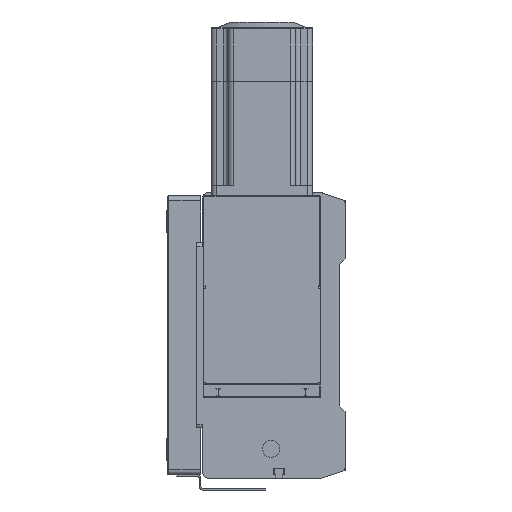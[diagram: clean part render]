
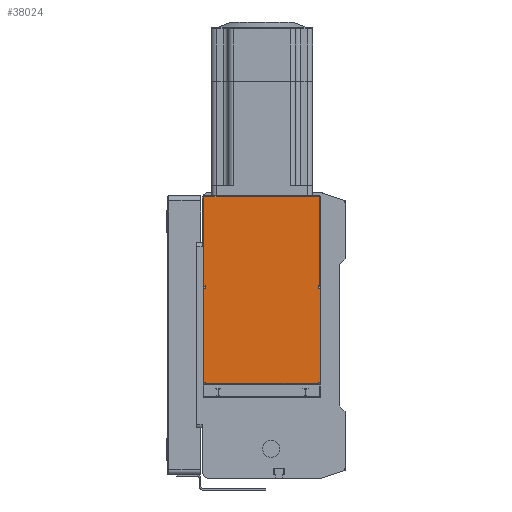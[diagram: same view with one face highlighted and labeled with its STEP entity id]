
A CAD part, left-side view. The second image highlights one B-rep face of the part: STEP entity #38024.
In plain terms, the highlighted planar face has unit normal (-1, 0, 0).
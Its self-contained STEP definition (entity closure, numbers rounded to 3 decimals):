
#25299=DIRECTION('',(0.,1.,0.));
#25300=VECTOR('',#25299,69.);
#25301=CARTESIAN_POINT('',(-333.5,15.5,82.5));
#25302=LINE('',#25301,#25300);
#25347=DIRECTION('',(0.,-1.,0.));
#25348=VECTOR('',#25347,1.);
#25349=CARTESIAN_POINT('',(-333.5,16.5,29.4));
#25350=LINE('',#25349,#25348);
#25541=DIRECTION('',(0.,0.,-1.));
#25542=VECTOR('',#25541,56.);
#25543=CARTESIAN_POINT('',(-333.5,85.,28.));
#25544=LINE('',#25543,#25542);
#25631=DIRECTION('',(0.,0.,-1.));
#25632=VECTOR('',#25631,1.4);
#25633=CARTESIAN_POINT('',(-333.5,83.5,29.4));
#25634=LINE('',#25633,#25632);
#25649=DIRECTION('',(0.,1.,0.));
#25650=VECTOR('',#25649,1.);
#25651=CARTESIAN_POINT('',(-333.5,83.5,29.4));
#25652=LINE('',#25651,#25650);
#25653=DIRECTION('',(0.,0.,-1.));
#25654=VECTOR('',#25653,1.4);
#25655=CARTESIAN_POINT('',(-333.5,16.5,29.4));
#25656=LINE('',#25655,#25654);
#25657=DIRECTION('',(0.,0.,-1.));
#25658=VECTOR('',#25657,56.);
#25659=CARTESIAN_POINT('',(-333.5,15.,28.));
#25660=LINE('',#25659,#25658);
#25661=DIRECTION('',(0.,1.,0.));
#25662=VECTOR('',#25661,1.5);
#25663=CARTESIAN_POINT('',(-333.5,15.,-28.));
#25664=LINE('',#25663,#25662);
#25665=DIRECTION('',(0.,0.,-1.));
#25666=VECTOR('',#25665,0.5);
#25667=CARTESIAN_POINT('',(-333.5,16.5,-28.));
#25668=LINE('',#25667,#25666);
#25674=DIRECTION('',(0.,0.,-1.));
#25675=VECTOR('',#25674,0.5);
#25676=CARTESIAN_POINT('',(-333.5,83.5,-28.));
#25677=LINE('',#25676,#25675);
#25690=DIRECTION('',(0.,-1.,0.));
#25691=VECTOR('',#25690,1.5);
#25692=CARTESIAN_POINT('',(-333.5,85.,-28.));
#25693=LINE('',#25692,#25691);
#25714=DIRECTION('',(0.,-1.,0.));
#25715=VECTOR('',#25714,67.);
#25716=CARTESIAN_POINT('',(-333.5,83.5,-28.5));
#25717=LINE('',#25716,#25715);
#26825=DIRECTION('',(0.,1.,0.));
#26826=VECTOR('',#26825,1.5);
#26827=CARTESIAN_POINT('',(-333.5,83.5,28.));
#26828=LINE('',#26827,#26826);
#26849=DIRECTION('',(0.,0.,-1.));
#26850=VECTOR('',#26849,53.1);
#26851=CARTESIAN_POINT('',(-333.5,84.5,82.5));
#26852=LINE('',#26851,#26850);
#26853=DIRECTION('',(0.,0.,1.));
#26854=VECTOR('',#26853,53.1);
#26855=CARTESIAN_POINT('',(-333.5,15.5,29.4));
#26856=LINE('',#26855,#26854);
#26993=DIRECTION('',(0.,1.,0.));
#26994=VECTOR('',#26993,1.5);
#26995=CARTESIAN_POINT('',(-333.5,15.,28.));
#26996=LINE('',#26995,#26994);
#31209=CARTESIAN_POINT('',(-333.5,84.5,29.4));
#31210=VERTEX_POINT('',#31209);
#31211=CARTESIAN_POINT('',(-333.5,83.5,29.4));
#31212=VERTEX_POINT('',#31211);
#31547=CARTESIAN_POINT('',(-333.5,16.5,-28.));
#31549=VERTEX_POINT('',#31547);
#31554=CARTESIAN_POINT('',(-333.5,16.5,-28.5));
#31556=VERTEX_POINT('',#31554);
#31603=CARTESIAN_POINT('',(-333.5,15.,-28.));
#31604=VERTEX_POINT('',#31603);
#31605=CARTESIAN_POINT('',(-333.5,15.,28.));
#31606=VERTEX_POINT('',#31605);
#31757=CARTESIAN_POINT('',(-333.5,83.5,28.));
#31758=CARTESIAN_POINT('',(-333.5,85.,28.));
#31759=VERTEX_POINT('',#31757);
#31760=VERTEX_POINT('',#31758);
#31761=CARTESIAN_POINT('',(-333.5,16.5,29.4));
#31762=CARTESIAN_POINT('',(-333.5,15.5,29.4));
#31763=VERTEX_POINT('',#31761);
#31764=VERTEX_POINT('',#31762);
#31765=CARTESIAN_POINT('',(-333.5,16.5,28.));
#31766=VERTEX_POINT('',#31765);
#31767=CARTESIAN_POINT('',(-333.5,83.5,-28.));
#31768=CARTESIAN_POINT('',(-333.5,83.5,-28.5));
#31769=VERTEX_POINT('',#31767);
#31770=VERTEX_POINT('',#31768);
#31779=CARTESIAN_POINT('',(-333.5,85.,-28.));
#31780=VERTEX_POINT('',#31779);
#32197=CARTESIAN_POINT('',(-333.5,84.5,82.5));
#32198=VERTEX_POINT('',#32197);
#32219=CARTESIAN_POINT('',(-333.5,15.5,82.5));
#32220=VERTEX_POINT('',#32219);
#37992=CARTESIAN_POINT('',(-333.5,50.,27.));
#37993=DIRECTION('',(1.,0.,0.));
#37994=DIRECTION('',(0.,0.,-1.));
#37995=AXIS2_PLACEMENT_3D('',#37992,#37993,#37994);
#37996=PLANE('',#37995);
#37998=ORIENTED_EDGE('',*,*,#37997,.F.);
#38000=ORIENTED_EDGE('',*,*,#37999,.F.);
#38001=ORIENTED_EDGE('',*,*,#37918,.F.);
#38003=ORIENTED_EDGE('',*,*,#38002,.F.);
#38004=ORIENTED_EDGE('',*,*,#37981,.F.);
#38005=ORIENTED_EDGE('',*,*,#37642,.T.);
#38007=ORIENTED_EDGE('',*,*,#38006,.F.);
#38008=ORIENTED_EDGE('',*,*,#37689,.F.);
#38010=ORIENTED_EDGE('',*,*,#38009,.F.);
#38011=ORIENTED_EDGE('',*,*,#37737,.F.);
#38012=ORIENTED_EDGE('',*,*,#37758,.T.);
#38014=ORIENTED_EDGE('',*,*,#38013,.F.);
#38015=ORIENTED_EDGE('',*,*,#37790,.T.);
#38017=ORIENTED_EDGE('',*,*,#38016,.T.);
#38019=ORIENTED_EDGE('',*,*,#38018,.T.);
#38021=ORIENTED_EDGE('',*,*,#38020,.F.);
#38022=EDGE_LOOP('',(#37998,#38000,#38001,#38003,#38004,#38005,#38007,#38008,
#38010,#38011,#38012,#38014,#38015,#38017,#38019,#38021));
#38023=FACE_OUTER_BOUND('',#38022,.F.);
#37642=EDGE_CURVE('',#31212,#31210,#25652,.T.);
#37689=EDGE_CURVE('',#32220,#32198,#25302,.T.);
#37737=EDGE_CURVE('',#31763,#31764,#25350,.T.);
#37758=EDGE_CURVE('',#31763,#31766,#25656,.T.);
#37790=EDGE_CURVE('',#31606,#31604,#25660,.T.);
#37918=EDGE_CURVE('',#31760,#31780,#25544,.T.);
#37981=EDGE_CURVE('',#31212,#31759,#25634,.T.);
#37997=EDGE_CURVE('',#31769,#31770,#25677,.T.);
#37999=EDGE_CURVE('',#31780,#31769,#25693,.T.);
#38002=EDGE_CURVE('',#31759,#31760,#26828,.T.);
#38006=EDGE_CURVE('',#32198,#31210,#26852,.T.);
#38009=EDGE_CURVE('',#31764,#32220,#26856,.T.);
#38013=EDGE_CURVE('',#31606,#31766,#26996,.T.);
#38016=EDGE_CURVE('',#31604,#31549,#25664,.T.);
#38018=EDGE_CURVE('',#31549,#31556,#25668,.T.);
#38020=EDGE_CURVE('',#31770,#31556,#25717,.T.);
#38024=ADVANCED_FACE('',(#38023),#37996,.F.);
